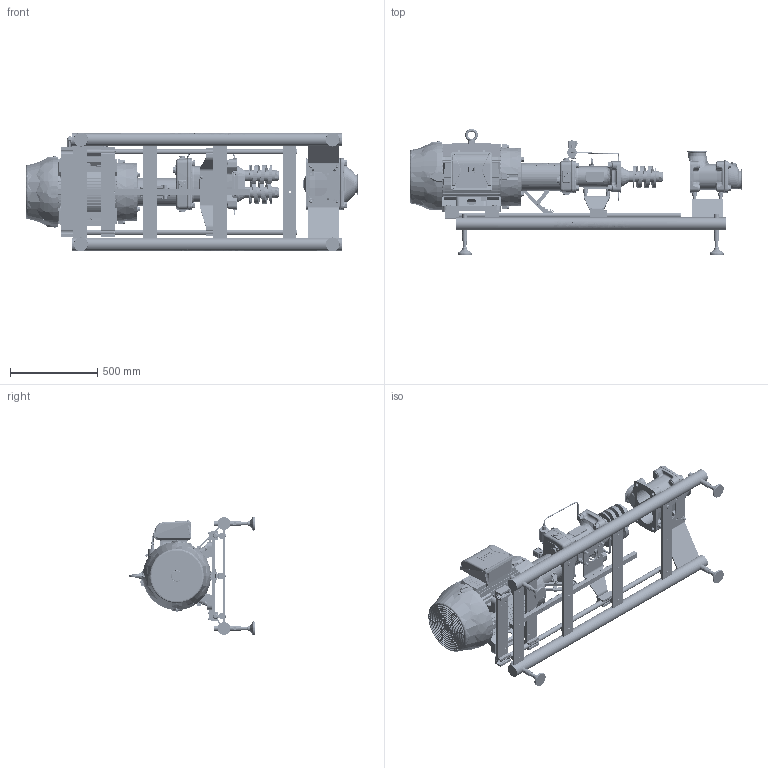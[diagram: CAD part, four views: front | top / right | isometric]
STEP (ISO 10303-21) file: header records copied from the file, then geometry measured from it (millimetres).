
FILE_DESCRIPTION (( 'STEP AP214' ), '1' );
FILE_NAME ('Twin Screw Pump VT130 on F4 with NEMA320 open for maintenance - 001024.STEP', '2025-02-05T12:18:07', ( '' ), ( '' ), 'SwSTEP 2.0', 'SolidWorks 2023', '' );
FILE_SCHEMA (( 'AUTOMOTIVE_DESIGN' ));
Length unit declared in the file: metre
Products named in the file (1): Twin Screw Pump VT130 on F4 with NEMA320 open for maintenance - 001024
Bounding box: 1898.41 x 719.45 x 680.5 mm (x, y, z)
Surface area: 8291717 mm2 (no closed solid volume)
Topology: 0 solids, 290 shells, 14036 faces, 35507 edges, 22257 vertices
Faces by surface type: plane 4658, cylinder 3713, bspline 2584, cone 2368, torus 679, sphere 34
Entity records: 763099 total; most frequent: CARTESIAN_POINT 278258, ORIENTED_EDGE 70270, DIRECTION 67831, EDGE_CURVE 35263, AXIS2_PLACEMENT_3D 26992, VERTEX_POINT 22257, CIRCLE 15539, EDGE_LOOP 15110
